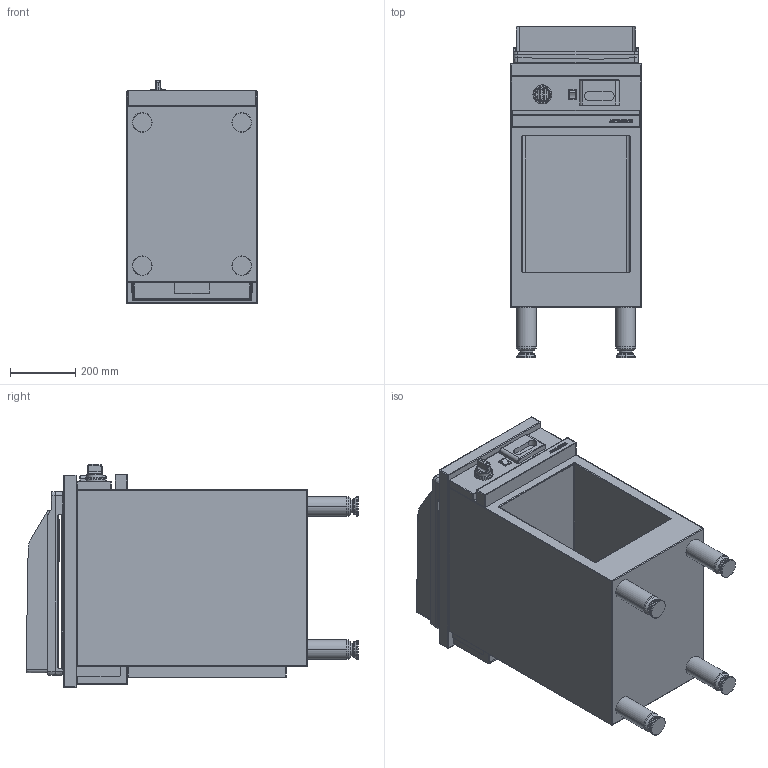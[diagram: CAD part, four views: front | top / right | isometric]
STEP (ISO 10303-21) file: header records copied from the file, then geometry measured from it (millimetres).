
FILE_DESCRIPTION((''),'2;1');
FILE_NAME('CME410GL_EXPORT_STEP_ASM','2017-11-22T',('r.avril'),(''),'PRO/ENGINEER BY PARAMETRIC TECHNOLOGY CORPORATION, 2014200','PRO/ENGINEER BY PARAMETRIC TECHNOLOGY CORPORATION, 2014200','');
FILE_SCHEMA(('AP203_CONFIGURATION_CONTROLLED_3D_DESIGN_OF_MECHANICAL_PARTS_AND_ASSEMBLIES_MIM_LF { 1 0 10303 403 2 1 2 }'));
Length unit declared in the file: millimetre
Products named in the file (10): MODULES_AMB_400_EXPORT_STEP; TABLE_410_GRILLADE; TABLE_410_GRILLADE_ASM; TIROIR_GRILLADE_EXPORT_STEP; MANETTE_AMB_EXPORT_STEP; BASCULEUR_AMB_EXPORT_DXF; 65062007; 50288400; 90000921_ASM; CME410GL_EXPORT_STEP_ASM
Assembly tree (9 placements, depth 3):
  CME410GL_EXPORT_STEP_ASM
    MODULES_AMB_400_EXPORT_STEP
    TABLE_410_GRILLADE_ASM
      TABLE_410_GRILLADE
    TIROIR_GRILLADE_EXPORT_STEP
    MANETTE_AMB_EXPORT_STEP
    BASCULEUR_AMB_EXPORT_DXF
    90000921_ASM
      65062007
      50288400
Bounding box: 400 x 1015.03 x 682.5 mm (x, y, z)
Volume: 59641166.7 mm3; surface area: 4952745 mm2
Topology: 14 solids, 46 shells, 1029 faces, 2919 edges, 2214 vertices
Faces by surface type: cylinder 370, plane 279, cone 112, torus 108, bspline 98, sphere 62
Entity records: 48037 total; most frequent: CARTESIAN_POINT 13653, DIRECTION 5424, ORIENTED_EDGE 4813, EDGE_CURVE 2657, AXIS2_PLACEMENT_3D 2045, PRESENTATION_STYLE_ASSIGNMENT 1823, STYLED_ITEM 1823, VERTEX_POINT 1730
